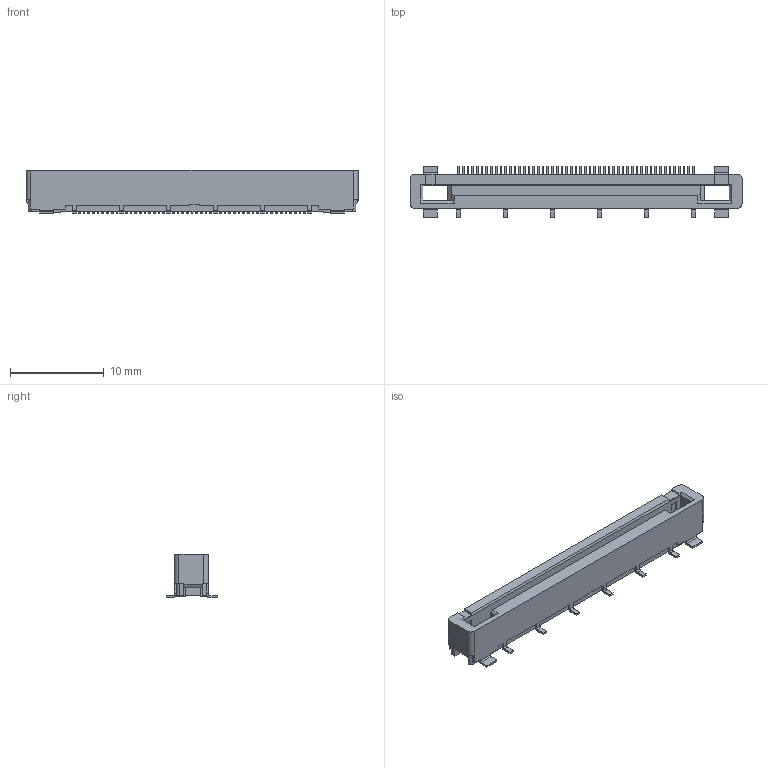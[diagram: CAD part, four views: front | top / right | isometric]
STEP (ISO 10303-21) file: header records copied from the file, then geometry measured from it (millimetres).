
FILE_DESCRIPTION (( 'STEP AP203' ), '1' );
FILE_NAME ('K3D-FI-RE51S-VF-R2 JAE Connector Division Proprietary.step', '2011-06-09T09:07:26', ( '' ), ( '' ), 'SwSTEP 2.0', 'SolidWorks 2008', '' );
FILE_SCHEMA (( 'CONFIG_CONTROL_DESIGN' ));
Length unit declared in the file: millimetre
Products named in the file (1): K3D-FI-RE51S-VF-R2 JAE Connector Division Proprietary
Bounding box: 35.35 x 5.5 x 4.65 mm (x, y, z)
Volume: 454.9 mm3; surface area: 855.9 mm2
Topology: 1 solids, 1 shells, 847 faces, 2374 edges, 1578 vertices
Faces by surface type: plane 575, cylinder 272
Entity records: 27373 total; most frequent: CARTESIAN_POINT 4920, ORIENTED_EDGE 4748, DIRECTION 4602, EDGE_CURVE 2374, VECTOR 1802, LINE 1802, VERTEX_POINT 1578, AXIS2_PLACEMENT_3D 1400
